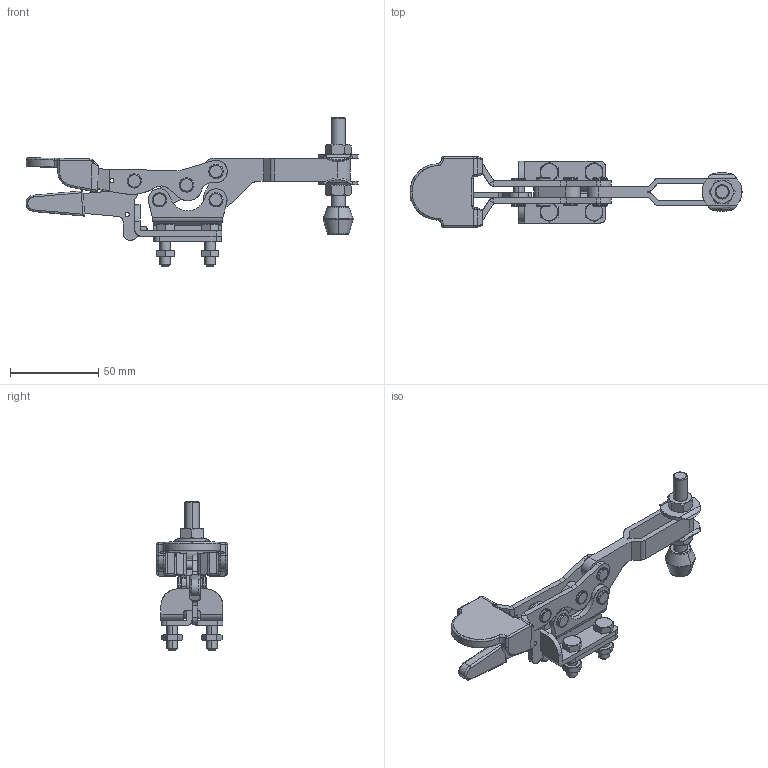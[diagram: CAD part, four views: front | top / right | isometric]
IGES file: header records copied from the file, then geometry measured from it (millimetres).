
Start section: SolidWorks IGES file using analytic representation for surfaces
Global section: file name: Y:\5.更新分\2023年対応\1110_ST-VTC更新分\ST-H225U-L\ST-H225U-L.IGS; native system: SolidWorks 2021; preprocessor: SolidWorks 2021; author: ImaoCorp; date: 231120.100052; units: millimetre
Bounding box: 187.71 x 39.95 x 84 mm (x, y, z)
Surface area: 37117.2 mm2 (no closed solid volume)
Topology: 0 solids, 0 shells, 619 faces, 7903 edges, 7897 vertices
Faces by surface type: bspline 321, revolution 298
